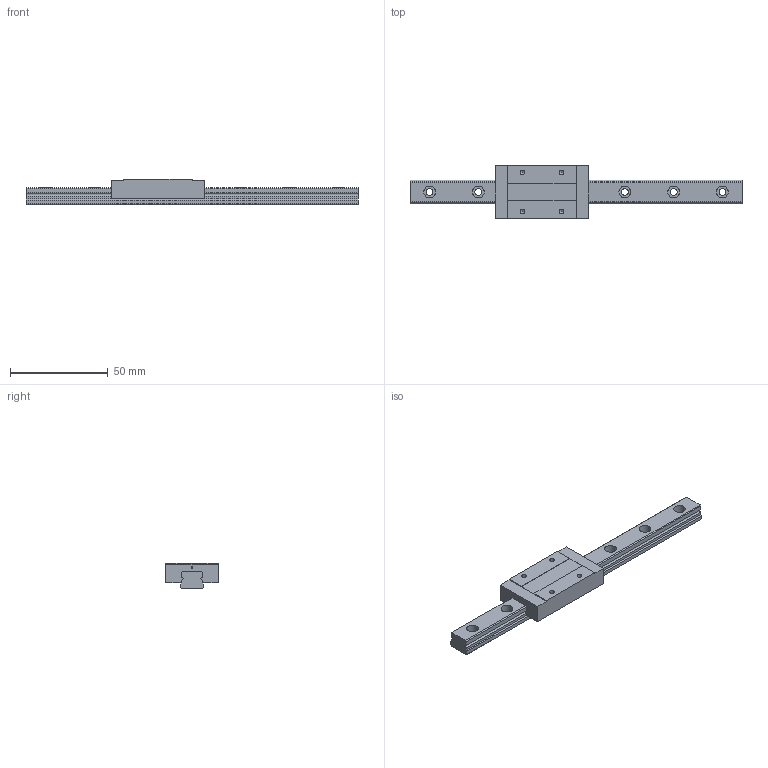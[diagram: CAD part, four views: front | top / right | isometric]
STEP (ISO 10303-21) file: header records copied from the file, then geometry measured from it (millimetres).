
FILE_DESCRIPTION((''),'2;1');
FILE_NAME('D:\製品 (図面)\カタログ用3D\リニアガイド関連\STEP形式\LGM-L\LGM12L.stp','2010-06-02T15:56:34',('Tsuchiya'),(''),'Autodesk Inventor 10','Autodesk Inventor 10','');
FILE_SCHEMA(('AUTOMOTIVE_DESIGN { 1 0 10303 214 1 1 1 1 }'));
Length unit declared in the file: millimetre
Products named in the file (3): LGM12L; LGM12L1; LGM12L2
Assembly tree (2 placements, depth 2):
  LGM12L
    LGM12L1
    LGM12L2
Bounding box: 170 x 27 x 13 mm (x, y, z)
Volume: 24843.6 mm3; surface area: 12754 mm2
Topology: 2 solids, 2 shells, 75 faces, 184 edges, 122 vertices
Faces by surface type: plane 39, bspline 27, cylinder 7, cone 2
Full cylindrical faces by diameter (mm): 1 x1, 2.459 x2
Entity records: 2387 total; most frequent: CARTESIAN_POINT 697, DIRECTION 308, ORIENTED_EDGE 308, EDGE_CURVE 154, EDGE_LOOP 122, VERTEX_POINT 116, VECTOR 106, LINE 106
